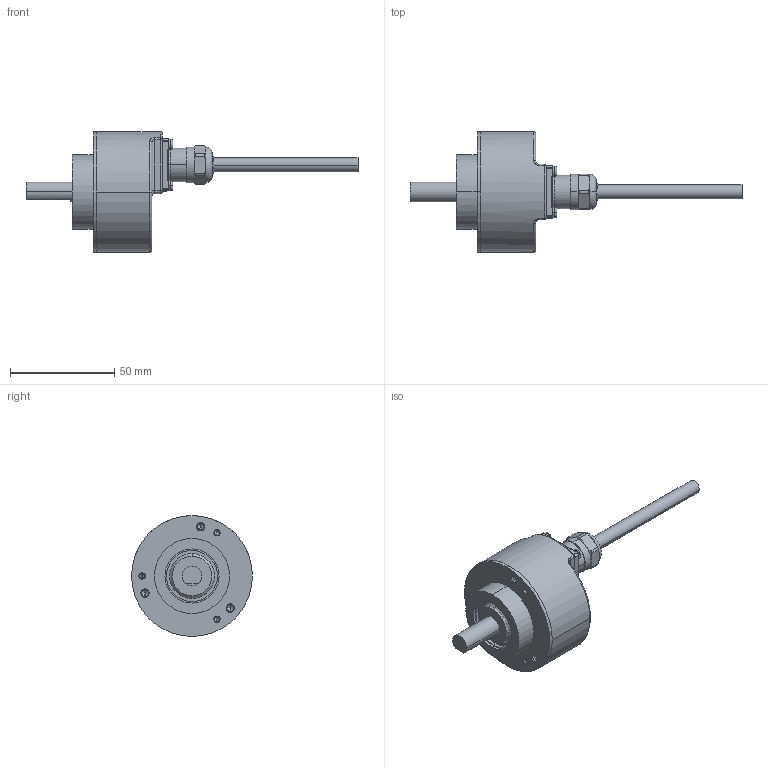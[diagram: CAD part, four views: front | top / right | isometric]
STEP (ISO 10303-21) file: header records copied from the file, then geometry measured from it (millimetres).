
FILE_DESCRIPTION (( 'STEP AP203' ), '1' );
FILE_NAME ('K58I.OXX.XXXXX.XS1C52B.6XA31.XXXX.step', '2025-12-08T15:58:39', ( '' ), ( '' ), 'SwSTEP 2.0', 'SolidWorks 2021', '' );
FILE_SCHEMA (( 'CONFIG_CONTROL_DESIGN' ));
Length unit declared in the file: millimetre
Products named in the file (1): K58I.OXX.XXXXX.XS1C52B.6XA31.XXXX
Bounding box: 159.41 x 58 x 58 mm (x, y, z)
Volume: 134364.2 mm3; surface area: 34129.9 mm2
Topology: 8 solids, 8 shells, 526 faces, 1291 edges, 798 vertices
Faces by surface type: cylinder 233, plane 136, cone 56, bspline 42, torus 41, sphere 18
Entity records: 17459 total; most frequent: CARTESIAN_POINT 5064, DIRECTION 2670, ORIENTED_EDGE 2558, EDGE_CURVE 1279, AXIS2_PLACEMENT_3D 1070, VERTEX_POINT 798, CIRCLE 585, EDGE_LOOP 567
